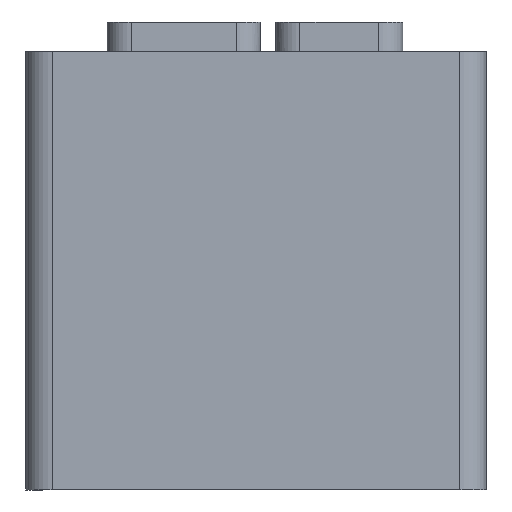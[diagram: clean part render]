
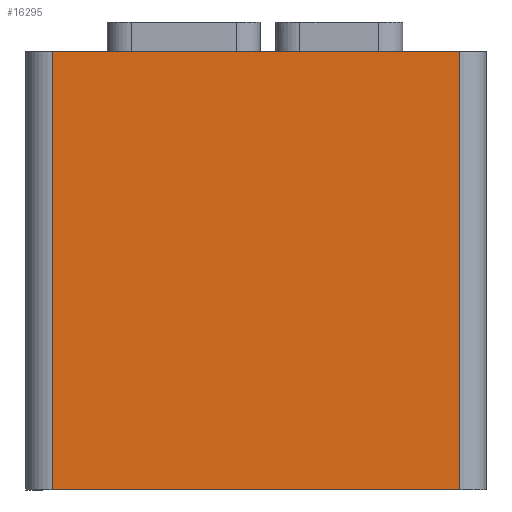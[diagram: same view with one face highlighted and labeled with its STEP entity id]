
A CAD part, front view. The second image highlights one B-rep face of the part: STEP entity #16295.
In plain terms, the highlighted planar face has unit normal (0, -1, 0).
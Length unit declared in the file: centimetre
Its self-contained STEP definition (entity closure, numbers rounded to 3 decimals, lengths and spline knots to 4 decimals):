
#3354=VERTEX_POINT('',#24747);
#3355=VERTEX_POINT('',#24749);
#3414=VERTEX_POINT('',#24858);
#3416=VERTEX_POINT('',#24861);
#4758=VECTOR('',#19533,1.);
#4762=VECTOR('',#19629,1.);
#4766=VECTOR('',#19641,1.);
#4829=VECTOR('',#19794,1.);
#5742=LINE('',#24748,#4758);
#5746=LINE('',#24860,#4762);
#5750=LINE('',#24874,#4766);
#5813=LINE('',#24984,#4829);
#6790=EDGE_CURVE('',#3355,#3354,#5742,.T.);
#6851=EDGE_CURVE('',#3416,#3414,#5746,.T.);
#6858=EDGE_CURVE('',#3355,#3414,#5750,.T.);
#6921=EDGE_CURVE('',#3416,#3354,#5813,.T.);
#9454=ORIENTED_EDGE('',*,*,#6921,.F.);
#9455=ORIENTED_EDGE('',*,*,#6851,.T.);
#9456=ORIENTED_EDGE('',*,*,#6858,.F.);
#9457=ORIENTED_EDGE('',*,*,#6790,.T.);
#13763=EDGE_LOOP('',(#9454,#9455,#9456,#9457));
#15035=FACE_BOUND('',#13763,.T.);
#16295=ADVANCED_FACE('',(#15035),#30183,.T.);
#17377=AXIS2_PLACEMENT_3D('',#24985,#19795,$);
#19533=DIRECTION('',(1.,0.,0.));
#19629=DIRECTION('',(-1.,0.,0.));
#19641=DIRECTION('',(0.,0.,1.));
#19794=DIRECTION('',(0.,0.,-1.));
#19795=DIRECTION('',(0.,-1.,0.));
#24747=CARTESIAN_POINT('',(9.9,0.,-0.3));
#24748=CARTESIAN_POINT('',(9.9,0.,-0.3));
#24749=CARTESIAN_POINT('',(0.6,0.,-0.3));
#24858=CARTESIAN_POINT('',(0.6,0.,9.7));
#24860=CARTESIAN_POINT('',(0.6,0.,9.7));
#24861=CARTESIAN_POINT('',(9.9,0.,9.7));
#24874=CARTESIAN_POINT('',(0.6,0.,0.));
#24984=CARTESIAN_POINT('',(9.9,0.,0.));
#24985=CARTESIAN_POINT('',(5.25,0.,0.));
#30183=PLANE('',#17377);
